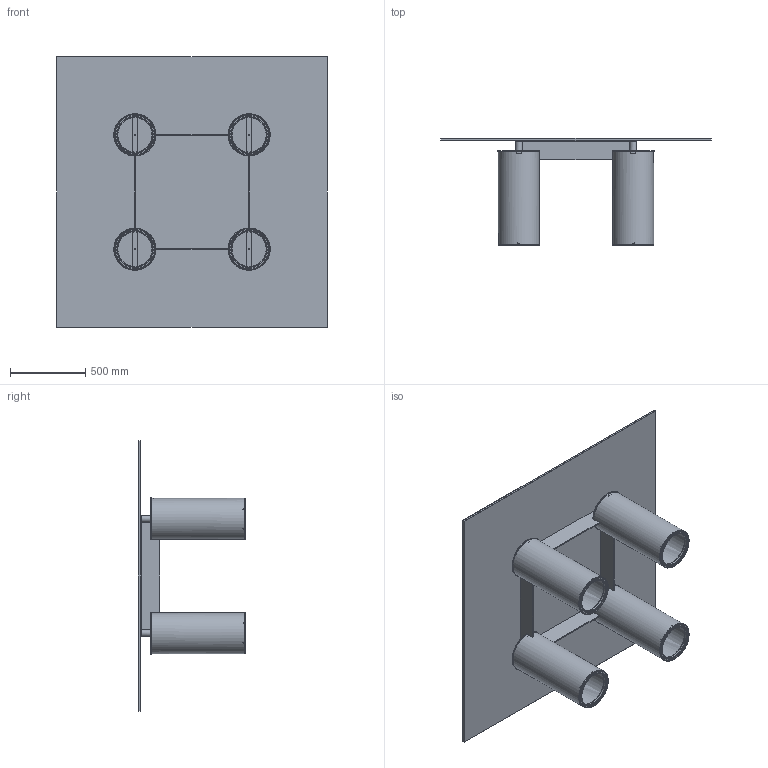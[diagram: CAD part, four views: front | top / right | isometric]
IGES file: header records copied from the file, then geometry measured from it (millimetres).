
Start section: SolidWorks IGES file using NURBS representation for surfaces
Global section: file name: \\fs\Gruppi\Tecnico\UFFICIO TECNICO\PROGETTI in SVILUPPO\2021\SERENISSIMO\3D\180X180\ASSIEME SERENISSIMO 1800X1800.IGS; native system: SolidWorks 2019; preprocessor: SolidWorks 2019; author: prell; date: 210716.114305; units: millimetre
Bounding box: 1800 x 714 x 1800 mm (x, y, z)
Surface area: 12490548.3 mm2 (no closed solid volume)
Topology: 0 solids, 0 shells, 1959 faces, 10817 edges, 10732 vertices
Faces by surface type: bspline 1959
